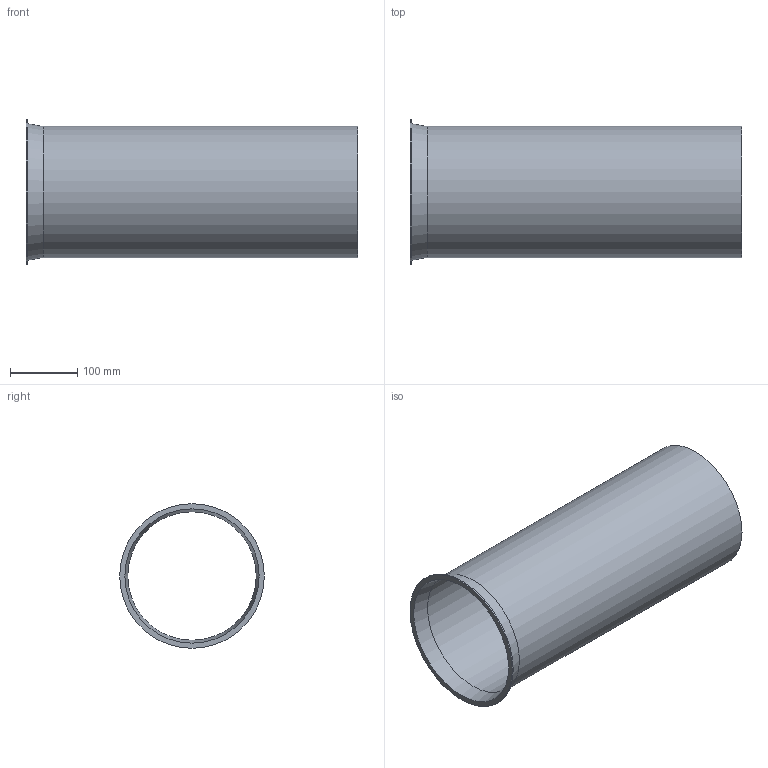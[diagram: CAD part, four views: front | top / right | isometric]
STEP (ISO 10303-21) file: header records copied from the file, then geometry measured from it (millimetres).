
FILE_DESCRIPTION((''),'2;1');
FILE_NAME('U:\Wolfgang\Marcel-3D\fertig\Kapitel 1\2011007.stp','2010-05-31T11:16:55',('TK2'),(''),'Autodesk Inventor 2010','Autodesk Inventor 2010','');
FILE_SCHEMA(('AUTOMOTIVE_DESIGN { 1 0 10303 214 1 1 1 1 }'));
Length unit declared in the file: millimetre
Products named in the file (1): 2011007
Bounding box: 493 x 215 x 215 mm (x, y, z)
Volume: 606637.8 mm3; surface area: 609190.5 mm2
Topology: 1 solids, 1 shells, 8 faces, 14 edges, 9 vertices
Faces by surface type: cylinder 3, plane 3, cone 2
Full cylindrical faces by diameter (mm): 191 x1, 195 x1, 215 x1
Entity records: 194 total; most frequent: DIRECTION 34, CARTESIAN_POINT 25, AXIS2_PLACEMENT_3D 17, ORIENTED_EDGE 16, EDGE_LOOP 16, VERTEX_POINT 8, CIRCLE 8, EDGE_CURVE 8
